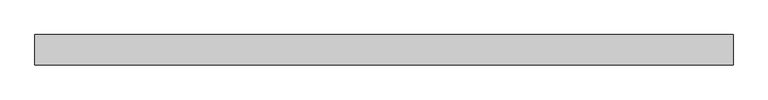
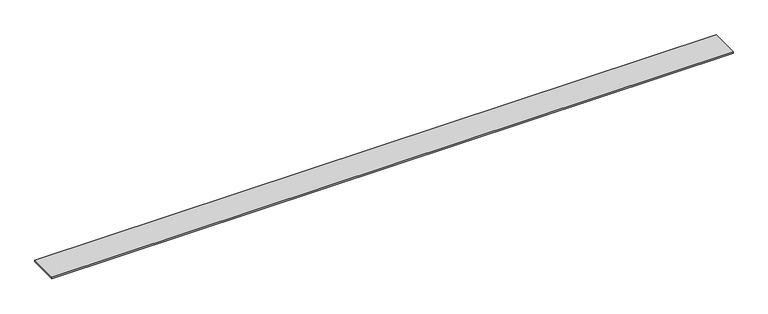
"""IFC4 building model written with IfcOpenShell, lengths in millimetres: furniture geometry, Geiger_GeigerOneCasegoods_WallTopTrimSingleSidedWall : 60Wx2.625Dx0.125H."""

import ifcopenshell
import ifcopenshell.guid

model = None  # the IFC model being written
_history = None  # IfcOwnerHistory: only IFC2X3 demands one
_inside = {}  # id of a spatial element -> (the spatial element, [elements in it])
_under = {}  # id of a project, library or spatial element -> (it, [spatial elements below it])
_declared = {}  # id of a project -> (the project, [libraries it declares])
_typed = {}  # id of a type object -> (the type object, [elements of that type])
_made_of = {}  # id of a material, layer set ... -> (it, [elements and type objects made of it])


def new_model(schema):
    """Start an empty IFC model of exactly this schema.

    Asked for "IFC4X3", IfcOpenShell would pick the latest addendum, in which some entities
    have other attributes; the version numbers below select the first issue.
    IFC2X3 requires an IfcOwnerHistory on every rooted entity: one is made here for all.
    """
    global model, _history
    if schema == "IFC4X3":
        model = ifcopenshell.file(schema_version=(4, 3, 0, 0))
    else:
        model = ifcopenshell.file(schema=schema)
    _inside.clear()
    _under.clear()
    _declared.clear()
    _typed.clear()
    _made_of.clear()
    _history = None
    if model.schema == "IFC2X3":
        org = make("IfcOrganization", Name="unknown")
        user = make(
            "IfcPersonAndOrganization",
            ThePerson=make("IfcPerson", FamilyName="unknown"),
            TheOrganization=org,
        )
        app = make(
            "IfcApplication",
            ApplicationDeveloper=org,
            Version="unknown",
            ApplicationFullName="unknown",
            ApplicationIdentifier="unknown",
        )
        _history = make(
            "IfcOwnerHistory",
            OwningUser=user,
            OwningApplication=app,
            ChangeAction="ADDED",
            CreationDate=0,
        )
    return model


def make(cls, **values):
    """One entity of the class cls with the attributes given. An attribute that is None is left unset."""
    return model.create_entity(
        cls, **{name: value for name, value in values.items() if value is not None}
    )


def rooted(cls, **values):
    """An entity with a GlobalId (a new one), such as an element, a storey or a relation."""
    return make(cls, GlobalId=ifcopenshell.guid.new(), OwnerHistory=_history, **values)


def si_unit(unit_type, name, prefix=None):
    """IfcSIUnit, for example si_unit("LENGTHUNIT", "METRE", prefix="MILLI")."""
    return make("IfcSIUnit", UnitType=unit_type, Prefix=prefix, Name=name)


def assignment(units):
    """IfcUnitAssignment: the units of a project."""
    return None if units is None else make("IfcUnitAssignment", Units=units)


def point(xyz):
    """IfcCartesianPoint."""
    return None if xyz is None else make("IfcCartesianPoint", Coordinates=xyz)


def direction(xyz):
    """IfcDirection."""
    return None if xyz is None else make("IfcDirection", DirectionRatios=xyz)


def frame(location, z_axis=None, x_axis=None):
    """IfcAxis2Placement3D, a coordinate frame: its origin and axes. An axis left out is left unset."""
    return make(
        "IfcAxis2Placement3D",
        Location=point(location),
        Axis=direction(z_axis),
        RefDirection=direction(x_axis),
    )


def origin():
    """The frame at (0, 0, 0) with its axes left unset."""
    return frame((0.0, 0.0, 0.0))


def origin_with_axes():
    """The frame at (0, 0, 0) with the z axis (0, 0, 1) and the x axis (1, 0, 0) written out."""
    return frame((0.0, 0.0, 0.0), z_axis=(0.0, 0.0, 1.0), x_axis=(1.0, 0.0, 0.0))


def place(relative_to, where):
    """IfcLocalPlacement: puts the frame where relative to a parent placement (None: the world)."""
    return make(
        "IfcLocalPlacement", PlacementRelTo=relative_to, RelativePlacement=where
    )


def context(
    kind, dimensions, precision=None, world=None, true_north=None, identifier=None
):
    """IfcGeometricRepresentationContext, for example the 3D "Model" context."""
    return make(
        "IfcGeometricRepresentationContext",
        ContextIdentifier=identifier,
        ContextType=kind,
        CoordinateSpaceDimension=dimensions,
        Precision=precision,
        WorldCoordinateSystem=world,
        TrueNorth=true_north,
    )


def project(units=None, contexts=None):
    """IfcProject with its units and contexts."""
    return rooted(
        "IfcProject",
        Name="project",
        RepresentationContexts=contexts,
        UnitsInContext=assignment(units),
    )


def spatial(cls, under=None, at=None, **own):
    """A site, building, storey or space (cls), placed at a placement, below another one or the project."""
    s = rooted(cls, ObjectPlacement=at, **own)
    if under is not None:
        _under.setdefault(under.id(), (under, []))[1].append(s)
    return s


def polyline(points):
    """IfcPolyline through the points."""
    return make("IfcPolyline", Points=[point(p) for p in points])


def outline(outer, holes=None, kind="AREA"):
    """IfcArbitraryClosedProfileDef: a profile drawn as a closed curve; with holes, ...WithVoids."""
    if holes is None:
        return make("IfcArbitraryClosedProfileDef", ProfileType=kind, OuterCurve=outer)
    return make(
        "IfcArbitraryProfileDefWithVoids",
        ProfileType=kind,
        OuterCurve=outer,
        InnerCurves=holes,
    )


def extrude(swept, where, along, depth):
    """IfcExtrudedAreaSolid: the profile swept, set in the frame where, extruded along a direction by depth."""
    return make(
        "IfcExtrudedAreaSolid",
        SweptArea=swept,
        Position=where,
        ExtrudedDirection=direction(along),
        Depth=depth,
    )


def shape(context_of_items, identifier, shape_type, items):
    """IfcShapeRepresentation: the items that make up one representation, for example the "Body"."""
    return make(
        "IfcShapeRepresentation",
        ContextOfItems=context_of_items,
        RepresentationIdentifier=identifier,
        RepresentationType=shape_type,
        Items=items,
    )


def source(mapping_origin, context_of_items, identifier, shape_type, items):
    """IfcRepresentationMap: a shape defined once, which mapped items show again and again."""
    return make(
        "IfcRepresentationMap",
        MappingOrigin=mapping_origin,
        MappedRepresentation=shape(context_of_items, identifier, shape_type, items),
    )


def transform(
    local_origin,
    x_axis=None,
    y_axis=None,
    z_axis=None,
    scale=None,
    scale2=None,
    scale3=None,
    uniform=True,
):
    """IfcCartesianTransformationOperator3D, or its non-uniform kind. x_axis, y_axis, z_axis: its Axis1, 2, 3."""
    if uniform:
        return make(
            "IfcCartesianTransformationOperator3D",
            Axis1=direction(x_axis),
            Axis2=direction(y_axis),
            LocalOrigin=point(local_origin),
            Scale=scale,
            Axis3=direction(z_axis),
        )
    return make(
        "IfcCartesianTransformationOperator3DnonUniform",
        Axis1=direction(x_axis),
        Axis2=direction(y_axis),
        LocalOrigin=point(local_origin),
        Scale=scale,
        Axis3=direction(z_axis),
        Scale2=scale2,
        Scale3=scale3,
    )


def mapped(mapping_source, mapping_target):
    """IfcMappedItem: shows the shape of a source again, moved by a transform."""
    return make(
        "IfcMappedItem", MappingSource=mapping_source, MappingTarget=mapping_target
    )


def made_of(thing, what):
    """Note that an element or type object is made of a material, layer set ...; save() writes the relation."""
    if what is not None:
        _made_of.setdefault(what.id(), (what, []))[1].append(thing)
    return thing


def element(
    cls,
    number,
    at=None,
    inside=None,
    cuts=None,
    type_object=None,
    material=None,
    context=None,
    identifier="Body",
    shape_type=None,
    held_by="IfcProductDefinitionShape",
    body=None,
    shapes=None,
    **own,
):
    """One element of the class cls, such as IfcWall. Its Tag is "e" and its number.

    at: its placement. inside: the storey or other place that contains it. cuts: it is an
    opening in that element (IfcRelVoidsElement). A single representation is given by context,
    identifier, shape_type and body (its items); several are given by shapes. held_by: the class
    of the entity that holds the representations. save() writes the other relations.
    """
    e = rooted(cls, Tag="e%d" % number, ObjectPlacement=at, **own)
    if body is not None:
        shapes = [shape(context, identifier, shape_type, body)]
    if shapes is not None:
        e.Representation = make(held_by, Representations=shapes)
    if inside is not None:
        _inside.setdefault(inside.id(), (inside, []))[1].append(e)
    if cuts is not None:
        rooted(
            "IfcRelVoidsElement", RelatingBuildingElement=cuts, RelatedOpeningElement=e
        )
    if type_object is not None:
        _typed.setdefault(type_object.id(), (type_object, []))[1].append(e)
    return made_of(e, material)


def aggregate(whole, parts):
    """IfcRelAggregates: a whole, such as a stair, and the parts it consists of."""
    return rooted("IfcRelAggregates", RelatingObject=whole, RelatedObjects=parts)


def save(model, path):
    """Write the relations noted so far, then the file.

    IfcRelAggregates (storeys below a building ...), IfcRelContainedInSpatialStructure (elements
    in a storey), IfcRelDefinesByType, IfcRelAssociatesMaterial and IfcRelDeclares: one each for
    every whole, place, type object, material and project.
    """
    for whole, parts in _under.values():
        aggregate(whole, parts)
    for where, things in _inside.values():
        rooted(
            "IfcRelContainedInSpatialStructure",
            RelatedElements=things,
            RelatingStructure=where,
        )
    for kind, things in _typed.values():
        rooted("IfcRelDefinesByType", RelatedObjects=things, RelatingType=kind)
    for what, things in _made_of.values():
        rooted("IfcRelAssociatesMaterial", RelatedObjects=things, RelatingMaterial=what)
    for by, libraries in _declared.values():
        rooted("IfcRelDeclares", RelatingContext=by, RelatedDefinitions=libraries)
    model.write(path)


def furniture_72f0afe8(model_context):
    return source(origin(), model_context, "Body", "SweptSolid", [
        extrude(outline(polyline([(1524.0, 33.0), (1524.0, -33.0), (0.0, -33.0), (0.0, 33.0), (1524.0, 33.0)])), origin_with_axes(), (0.0, 0.0, 1.0), 3.2004),
    ])


if __name__ == "__main__":
    model = new_model("IFC4")
    model_context = context("Model", 3, world=origin())
    ifc_project = project(units=[si_unit("LENGTHUNIT", "METRE", prefix="MILLI")], contexts=[model_context])
    site = spatial("IfcSite", under=ifc_project)
    building = spatial("IfcBuilding", under=site)
    placement = place(None, origin())
    furniture_shape = furniture_72f0afe8(model_context)
    element("IfcFurniture", 1, ObjectType="Geiger_GeigerOneCasegoods_WallTopTrimSingleSidedWall : 60Wx2.625Dx0.125H", at=placement, inside=building, context=model_context, shape_type="MappedRepresentation", body=[
        mapped(furniture_shape, transform((0.0, 0.0, 0.0), x_axis=(1.0, 0.0, 0.0), y_axis=(0.0, 1.0, 0.0), z_axis=(0.0, 0.0, 1.0))),
    ])
    save(model, "model.ifc")
